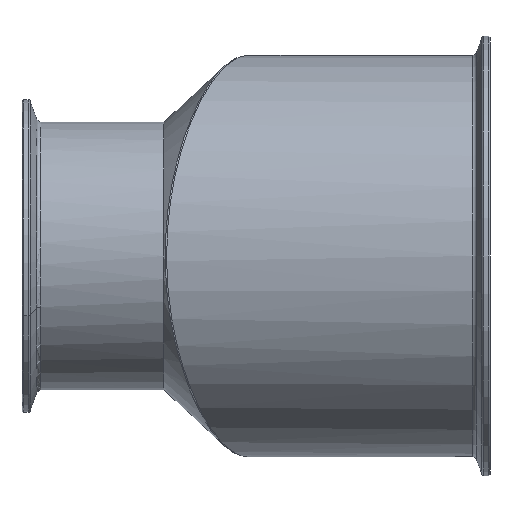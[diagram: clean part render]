
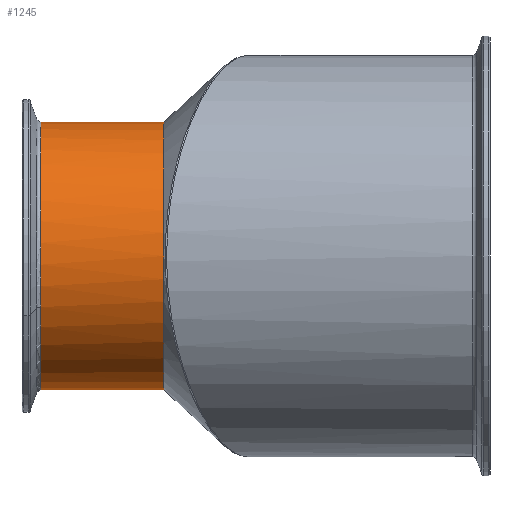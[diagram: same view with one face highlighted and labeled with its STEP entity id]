
A CAD part, front view. The second image highlights one B-rep face of the part: STEP entity #1245.
In plain terms, the highlighted cylindrical face has radius 50.8 mm (diameter 101.6 mm), a partial arc.
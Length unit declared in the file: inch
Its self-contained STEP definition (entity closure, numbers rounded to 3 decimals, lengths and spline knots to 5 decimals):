
#104 = DIRECTION ( 'NONE',  ( 0., -0.924, -0.382 ) ) ;
#173 = VECTOR ( 'NONE', #2167, 39.37008 ) ;
#269 = VERTEX_POINT ( 'NONE', #3436 ) ;
#604 = ORIENTED_EDGE ( 'NONE', *, *, #1540, .T. ) ;
#634 = ORIENTED_EDGE ( 'NONE', *, *, #751, .T. ) ;
#708 = EDGE_LOOP ( 'NONE', ( #1684, #604, #1654, #634, #3807 ) ) ;
#740 = AXIS2_PLACEMENT_3D ( 'NONE', #807, #2994, #1111 ) ;
#750 = CYLINDRICAL_SURFACE ( 'NONE', #2173, 2. ) ;
#751 = EDGE_CURVE ( 'NONE', #2250, #1836, #2112, .T. ) ;
#793 = CARTESIAN_POINT ( 'NONE',  ( -5.96607, -0.97402, 0. ) ) ;
#807 = CARTESIAN_POINT ( 'NONE',  ( -4.125, -0.97402, 0. ) ) ;
#850 = DIRECTION ( 'NONE',  ( 0., -0.924, -0.382 ) ) ;
#863 = CARTESIAN_POINT ( 'NONE',  ( -5.96607, -0.97402, 0. ) ) ;
#1111 = DIRECTION ( 'NONE',  ( 0., 0., -1. ) ) ;
#1208 = EDGE_CURVE ( 'NONE', #2108, #2250, #2459, .T. ) ;
#1245 = ADVANCED_FACE ( 'NONE', ( #3367 ), #750, .T. ) ;
#1275 = VECTOR ( 'NONE', #3784, 39.37008 ) ;
#1282 = CIRCLE ( 'NONE', #740, 2. ) ;
#1330 = AXIS2_PLACEMENT_3D ( 'NONE', #793, #2334, #104 ) ;
#1540 = EDGE_CURVE ( 'NONE', #269, #2108, #3035, .T. ) ;
#1638 = CARTESIAN_POINT ( 'NONE',  ( -5.96607, -2.82246, -0.7637 ) ) ;
#1654 = ORIENTED_EDGE ( 'NONE', *, *, #1208, .T. ) ;
#1684 = ORIENTED_EDGE ( 'NONE', *, *, #3986, .F. ) ;
#1836 = VERTEX_POINT ( 'NONE', #3260 ) ;
#2108 = VERTEX_POINT ( 'NONE', #1638 ) ;
#2112 = LINE ( 'NONE', #2312, #1275 ) ;
#2167 = DIRECTION ( 'NONE',  ( 1., 0., 0. ) ) ;
#2173 = AXIS2_PLACEMENT_3D ( 'NONE', #2803, #3345, #3452 ) ;
#2250 = VERTEX_POINT ( 'NONE', #3951 ) ;
#2312 = CARTESIAN_POINT ( 'NONE',  ( -3.74899, -0.97402, -2. ) ) ;
#2334 = DIRECTION ( 'NONE',  ( 1., 0., 0. ) ) ;
#2459 = CIRCLE ( 'NONE', #3028, 2. ) ;
#2669 = LINE ( 'NONE', #4049, #173 ) ;
#2745 = VERTEX_POINT ( 'NONE', #2842 ) ;
#2803 = CARTESIAN_POINT ( 'NONE',  ( -3.74899, -0.97402, 0. ) ) ;
#2842 = CARTESIAN_POINT ( 'NONE',  ( -4.125, -0.97402, 2. ) ) ;
#2994 = DIRECTION ( 'NONE',  ( 1., 0., 0. ) ) ;
#3028 = AXIS2_PLACEMENT_3D ( 'NONE', #863, #3560, #850 ) ;
#3035 = CIRCLE ( 'NONE', #1330, 2. ) ;
#3260 = CARTESIAN_POINT ( 'NONE',  ( -4.125, -0.97402, -2. ) ) ;
#3345 = DIRECTION ( 'NONE',  ( 1., 0., 0. ) ) ;
#3367 = FACE_OUTER_BOUND ( 'NONE', #708, .T. ) ;
#3436 = CARTESIAN_POINT ( 'NONE',  ( -5.96607, -0.97402, 2. ) ) ;
#3452 = DIRECTION ( 'NONE',  ( 0., 0., -1. ) ) ;
#3560 = DIRECTION ( 'NONE',  ( 1., 0., 0. ) ) ;
#3657 = EDGE_CURVE ( 'NONE', #2745, #1836, #1282, .T. ) ;
#3784 = DIRECTION ( 'NONE',  ( 1., 0., 0. ) ) ;
#3807 = ORIENTED_EDGE ( 'NONE', *, *, #3657, .F. ) ;
#3951 = CARTESIAN_POINT ( 'NONE',  ( -5.96607, -0.97402, -2. ) ) ;
#3986 = EDGE_CURVE ( 'NONE', #269, #2745, #2669, .T. ) ;
#4049 = CARTESIAN_POINT ( 'NONE',  ( -3.74899, -0.97402, 2. ) ) ;
